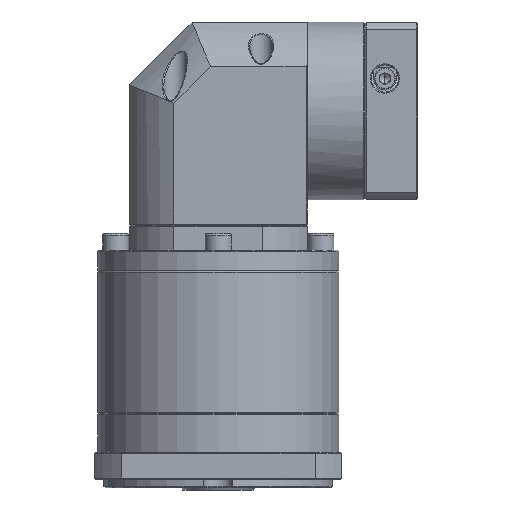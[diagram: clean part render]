
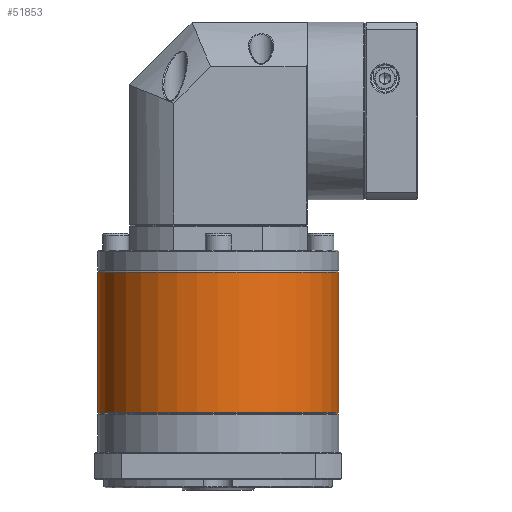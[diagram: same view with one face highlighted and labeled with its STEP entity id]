
A CAD part, front view. The second image highlights one B-rep face of the part: STEP entity #51853.
In plain terms, the highlighted cylindrical face has radius 57.5 mm (diameter 115 mm), a partial arc.
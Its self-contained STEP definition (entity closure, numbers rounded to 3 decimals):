
#94 = CARTESIAN_POINT ( 'NONE',  ( 13.796, 63.298, -140.03 ) ) ;
#1789 = CIRCLE ( 'NONE', #24667, 57.5 ) ;
#5847 = CARTESIAN_POINT ( 'NONE',  ( 71.296, 63.298, -140.03 ) ) ;
#6684 = CARTESIAN_POINT ( 'NONE',  ( 71.296, 63.298, -72.818 ) ) ;
#8457 = AXIS2_PLACEMENT_3D ( 'NONE', #129211, #107965, #129654 ) ;
#17127 = DIRECTION ( 'NONE',  ( 0., 0., -1. ) ) ;
#19333 = DIRECTION ( 'NONE',  ( 0., 0., -1. ) ) ;
#20805 = LINE ( 'NONE', #81605, #128092 ) ;
#23436 = AXIS2_PLACEMENT_3D ( 'NONE', #40557, #102436, #101987 ) ;
#24213 = CARTESIAN_POINT ( 'NONE',  ( 128.796, 63.298, -72.818 ) ) ;
#24667 = AXIS2_PLACEMENT_3D ( 'NONE', #6684, #17127, #78121 ) ;
#25898 = DIRECTION ( 'NONE',  ( -1., 0., 0. ) ) ;
#30229 = EDGE_CURVE ( 'NONE', #92773, #92309, #20805, .T. ) ;
#31767 = LINE ( 'NONE', #115051, #122914 ) ;
#33241 = CIRCLE ( 'NONE', #23436, 57.5 ) ;
#35773 = ORIENTED_EDGE ( 'NONE', *, *, #119430, .T. ) ;
#36631 = VERTEX_POINT ( 'NONE', #94 ) ;
#40557 = CARTESIAN_POINT ( 'NONE',  ( 71.296, 63.298, -72.818 ) ) ;
#50250 = ORIENTED_EDGE ( 'NONE', *, *, #115441, .T. ) ;
#51853 = ADVANCED_FACE ( 'NONE', ( #87396 ), #69415, .T. ) ;
#56382 = DIRECTION ( 'NONE',  ( 0., 0., 1. ) ) ;
#60366 = EDGE_LOOP ( 'NONE', ( #66507, #50250, #103501, #113868, #35773 ) ) ;
#64059 = EDGE_CURVE ( 'NONE', #100248, #36631, #31767, .T. ) ;
#66507 = ORIENTED_EDGE ( 'NONE', *, *, #30229, .F. ) ;
#69415 = CYLINDRICAL_SURFACE ( 'NONE', #8457, 57.5 ) ;
#78121 = DIRECTION ( 'NONE',  ( -1., 0., 0. ) ) ;
#81605 = CARTESIAN_POINT ( 'NONE',  ( 128.796, 63.298, -72.318 ) ) ;
#85485 = VERTEX_POINT ( 'NONE', #107335 ) ;
#86001 = DIRECTION ( 'NONE',  ( 0., 0., -1. ) ) ;
#87396 = FACE_OUTER_BOUND ( 'NONE', #60366, .T. ) ;
#92309 = VERTEX_POINT ( 'NONE', #119730 ) ;
#92773 = VERTEX_POINT ( 'NONE', #24213 ) ;
#94429 = CARTESIAN_POINT ( 'NONE',  ( 13.796, 63.298, -72.818 ) ) ;
#100248 = VERTEX_POINT ( 'NONE', #94429 ) ;
#101987 = DIRECTION ( 'NONE',  ( -1., 0., 0. ) ) ;
#102436 = DIRECTION ( 'NONE',  ( 0., 0., -1. ) ) ;
#103501 = ORIENTED_EDGE ( 'NONE', *, *, #112876, .T. ) ;
#107335 = CARTESIAN_POINT ( 'NONE',  ( 71.296, 5.798, -72.818 ) ) ;
#107965 = DIRECTION ( 'NONE',  ( 0., 0., -1. ) ) ;
#112876 = EDGE_CURVE ( 'NONE', #85485, #100248, #33241, .T. ) ;
#113868 = ORIENTED_EDGE ( 'NONE', *, *, #64059, .T. ) ;
#114275 = AXIS2_PLACEMENT_3D ( 'NONE', #5847, #56382, #25898 ) ;
#115051 = CARTESIAN_POINT ( 'NONE',  ( 13.796, 63.298, -72.318 ) ) ;
#115441 = EDGE_CURVE ( 'NONE', #92773, #85485, #1789, .T. ) ;
#119430 = EDGE_CURVE ( 'NONE', #36631, #92309, #129038, .T. ) ;
#119730 = CARTESIAN_POINT ( 'NONE',  ( 128.796, 63.298, -140.03 ) ) ;
#122914 = VECTOR ( 'NONE', #86001, 1000. ) ;
#128092 = VECTOR ( 'NONE', #19333, 1000. ) ;
#129038 = CIRCLE ( 'NONE', #114275, 57.5 ) ;
#129211 = CARTESIAN_POINT ( 'NONE',  ( 71.296, 63.298, -72.318 ) ) ;
#129654 = DIRECTION ( 'NONE',  ( -1., 0., 0. ) ) ;
